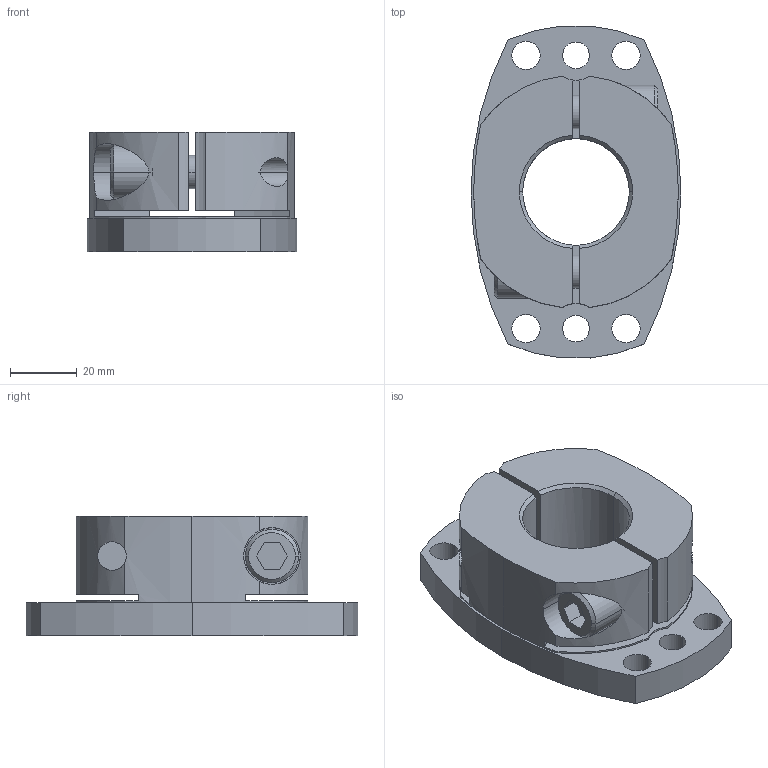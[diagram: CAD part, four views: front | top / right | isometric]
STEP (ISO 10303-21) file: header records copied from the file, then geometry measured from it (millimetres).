
FILE_DESCRIPTION((''),'2;1');
FILE_NAME('SHDB-100B-32.stp','2026-01-28T08:41:23',(''),(''),'AutoCAD STEP 2000i','AutoCAD 2000i',', , ');
FILE_SCHEMA(('CONFIG_CONTROL_DESIGN'));
Length unit declared in the file: millimetre
Products named in the file (2): SHDB-100B-28; 忣兜1
Assembly tree (1 placements, depth 2):
  SHDB-100B-28
    忣兜1
Bounding box: 63 x 99.64 x 36 mm (x, y, z)
Volume: 107003.2 mm3; surface area: 29550.3 mm2
Topology: 1 solids, 1 shells, 102 faces, 280 edges, 184 vertices
Faces by surface type: cylinder 58, plane 34, cone 10
Entity records: 3683 total; most frequent: CARTESIAN_POINT 856, DIRECTION 602, ORIENTED_EDGE 560, EDGE_CURVE 280, AXIS2_PLACEMENT_3D 238, VERTEX_POINT 184, CIRCLE 134, VECTOR 126
